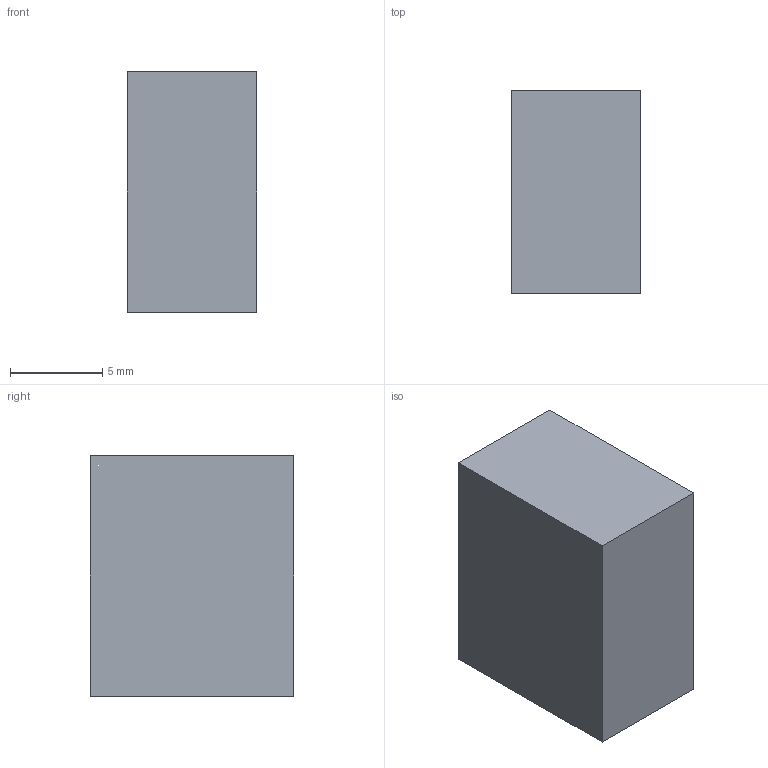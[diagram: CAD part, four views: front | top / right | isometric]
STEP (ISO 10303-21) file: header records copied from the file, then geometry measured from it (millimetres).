
FILE_DESCRIPTION(('Open CASCADE Model'),'2;1');
FILE_NAME('Open CASCADE Shape Model','2026-10-27T10:56:42',('Author'),( 'Open CASCADE'),'Open CASCADE STEP processor 7.9','Open CASCADE 7.9' ,'Unknown');
FILE_SCHEMA(('AUTOMOTIVE_DESIGN { 1 0 10303 214 1 1 1 1 }'));
Length unit declared in the file: millimetre
Products named in the file (1): Open CASCADE STEP translator 7.9 1
Bounding box: 7 x 11 x 13 mm (x, y, z)
Volume: 1001 mm3; surface area: 622 mm2
Topology: 1 solids, 1 shells, 6 faces, 12 edges, 8 vertices
Faces by surface type: plane 6
Entity records: 322 total; most frequent: CARTESIAN_POINT 51, DIRECTION 50, LINE 36, VECTOR 36, ORIENTED_EDGE 24, PCURVE 24, DEFINITIONAL_REPRESENTATION 24, EDGE_CURVE 12
